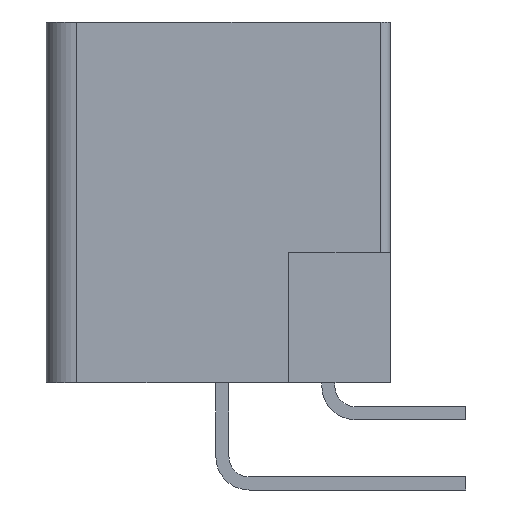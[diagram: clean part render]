
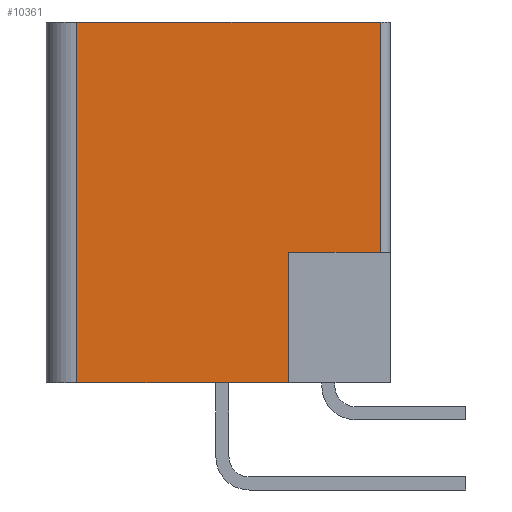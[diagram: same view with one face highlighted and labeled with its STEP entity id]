
A CAD part, left-side view. The second image highlights one B-rep face of the part: STEP entity #10361.
In plain terms, the highlighted planar face has unit normal (-1, 0, 0).
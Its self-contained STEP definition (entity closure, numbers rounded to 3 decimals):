
#214=DIRECTION('',(0.,1.,0.));
#215=VECTOR('',#214,14.9);
#216=CARTESIAN_POINT('',(-12.05,-7.95,0.));
#217=LINE('',#216,#215);
#2659=DIRECTION('',(0.,1.,0.));
#2660=VECTOR('',#2659,10.4);
#2661=CARTESIAN_POINT('',(-12.05,-3.45,-17.7));
#2662=LINE('',#2661,#2660);
#3127=DIRECTION('',(0.,1.,0.));
#3128=VECTOR('',#3127,4.5);
#3129=CARTESIAN_POINT('',(-12.05,-7.95,-11.3));
#3130=LINE('',#3129,#3128);
#3131=DIRECTION('',(0.,0.,1.));
#3132=VECTOR('',#3131,6.4);
#3133=CARTESIAN_POINT('',(-12.05,-3.45,-17.7));
#3134=LINE('',#3133,#3132);
#3135=DIRECTION('',(0.,0.,1.));
#3136=VECTOR('',#3135,17.7);
#3137=CARTESIAN_POINT('',(-12.05,6.95,-17.7));
#3138=LINE('',#3137,#3136);
#3139=DIRECTION('',(0.,0.,-1.));
#3140=VECTOR('',#3139,11.3);
#3141=CARTESIAN_POINT('',(-12.05,-7.95,0.));
#3142=LINE('',#3141,#3140);
#4572=CARTESIAN_POINT('',(-12.05,6.95,0.));
#4573=VERTEX_POINT('',#4572);
#4580=CARTESIAN_POINT('',(-12.05,6.95,-17.7));
#4581=VERTEX_POINT('',#4580);
#4676=CARTESIAN_POINT('',(-12.05,-3.45,-17.7));
#4677=CARTESIAN_POINT('',(-12.05,-3.45,-11.3));
#4678=VERTEX_POINT('',#4676);
#4679=VERTEX_POINT('',#4677);
#5433=CARTESIAN_POINT('',(-12.05,-7.95,-11.3));
#5435=VERTEX_POINT('',#5433);
#5444=CARTESIAN_POINT('',(-12.05,-7.95,0.));
#5445=VERTEX_POINT('',#5444);
#10346=CARTESIAN_POINT('',(-12.05,6.95,0.));
#10347=DIRECTION('',(-1.,0.,0.));
#10348=DIRECTION('',(0.,-1.,0.));
#10349=AXIS2_PLACEMENT_3D('',#10346,#10347,#10348);
#10350=PLANE('',#10349);
#10351=ORIENTED_EDGE('',*,*,#9667,.T.);
#10353=ORIENTED_EDGE('',*,*,#10352,.F.);
#10354=ORIENTED_EDGE('',*,*,#9859,.T.);
#10355=ORIENTED_EDGE('',*,*,#10339,.T.);
#10356=ORIENTED_EDGE('',*,*,#6015,.F.);
#10358=ORIENTED_EDGE('',*,*,#10357,.T.);
#10359=EDGE_LOOP('',(#10351,#10353,#10354,#10355,#10356,#10358));
#10360=FACE_OUTER_BOUND('',#10359,.F.);
#10361=ADVANCED_FACE('',(#10360),#10350,.T.);
#6015=EDGE_CURVE('',#5445,#4573,#217,.T.);
#9667=EDGE_CURVE('',#5435,#4679,#3130,.T.);
#9859=EDGE_CURVE('',#4678,#4581,#2662,.T.);
#10339=EDGE_CURVE('',#4581,#4573,#3138,.T.);
#10352=EDGE_CURVE('',#4678,#4679,#3134,.T.);
#10357=EDGE_CURVE('',#5445,#5435,#3142,.T.);
